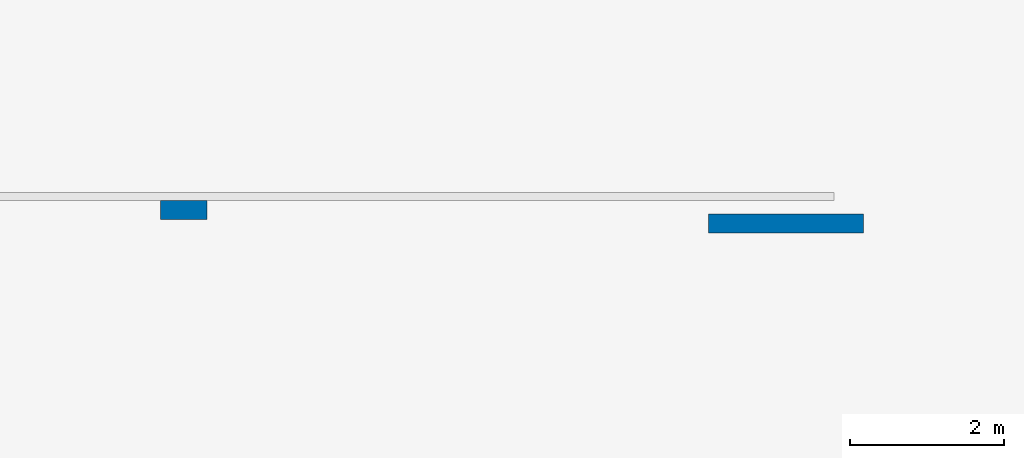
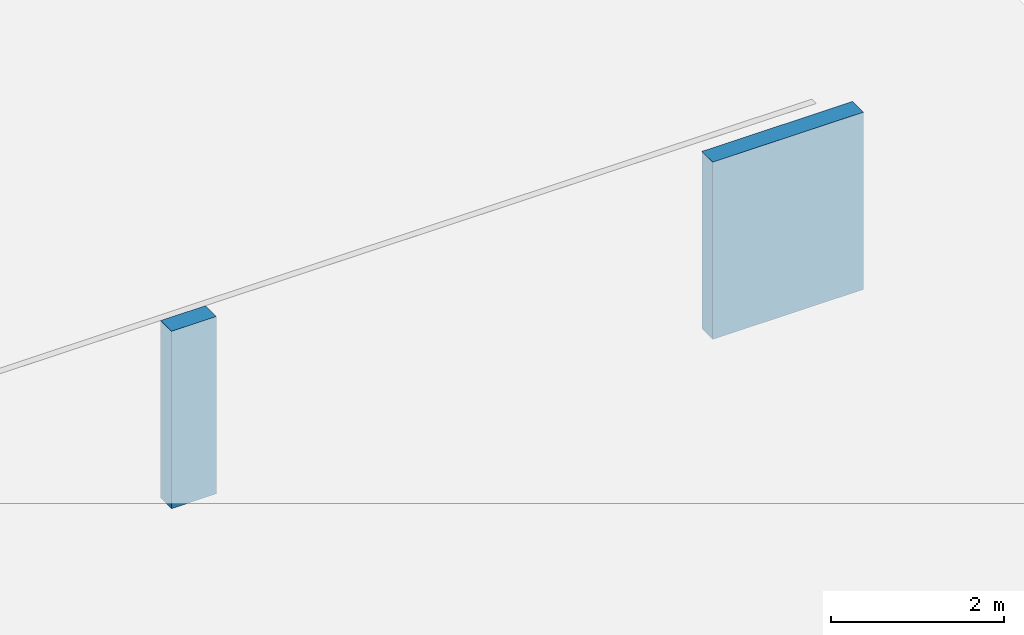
# One storey, part 2 of 10: 2 columns.
"""IFC2X3 building model written with IfcOpenShell, lengths in millimetres."""

import ifcopenshell
import ifcopenshell.guid

model = None  # the IFC model being written
_history = None  # IfcOwnerHistory: only IFC2X3 demands one
_inside = {}  # id of a spatial element -> (the spatial element, [elements in it])
_under = {}  # id of a project, library or spatial element -> (it, [spatial elements below it])
_declared = {}  # id of a project -> (the project, [libraries it declares])
_typed = {}  # id of a type object -> (the type object, [elements of that type])
_made_of = {}  # id of a material, layer set ... -> (it, [elements and type objects made of it])


def new_model(schema):
    """Start an empty IFC model of exactly this schema.

    Asked for "IFC4X3", IfcOpenShell would pick the latest addendum, in which some entities
    have other attributes; the version numbers below select the first issue.
    IFC2X3 requires an IfcOwnerHistory on every rooted entity: one is made here for all.
    """
    global model, _history
    if schema == "IFC4X3":
        model = ifcopenshell.file(schema_version=(4, 3, 0, 0))
    else:
        model = ifcopenshell.file(schema=schema)
    _inside.clear()
    _under.clear()
    _declared.clear()
    _typed.clear()
    _made_of.clear()
    _history = None
    if model.schema == "IFC2X3":
        org = make("IfcOrganization", Name="unknown")
        user = make(
            "IfcPersonAndOrganization",
            ThePerson=make("IfcPerson", FamilyName="unknown"),
            TheOrganization=org,
        )
        app = make(
            "IfcApplication",
            ApplicationDeveloper=org,
            Version="unknown",
            ApplicationFullName="unknown",
            ApplicationIdentifier="unknown",
        )
        _history = make(
            "IfcOwnerHistory",
            OwningUser=user,
            OwningApplication=app,
            ChangeAction="ADDED",
            CreationDate=0,
        )
    return model


def make(cls, **values):
    """One entity of the class cls with the attributes given. An attribute that is None is left unset."""
    return model.create_entity(
        cls, **{name: value for name, value in values.items() if value is not None}
    )


def entity(cls, *values):
    """Any entity or typed value of the class cls, its attributes in the order of the schema. None: left unset."""
    e = model.create_entity(cls)
    for i, value in enumerate(values):
        if value is not None:
            e[i] = value
    return e


def rooted(cls, **values):
    """An entity with a GlobalId (a new one), such as an element, a storey or a relation."""
    return make(cls, GlobalId=ifcopenshell.guid.new(), OwnerHistory=_history, **values)


def si_unit(unit_type, name, prefix=None):
    """IfcSIUnit, for example si_unit("LENGTHUNIT", "METRE", prefix="MILLI")."""
    return make("IfcSIUnit", UnitType=unit_type, Prefix=prefix, Name=name)


def converted_unit(unit_type, name, factor, base, dimensions=None, offset=None):
    """IfcConversionBasedUnit, such as the inch: factor (a typed value) times the base unit."""
    return make(
        "IfcConversionBasedUnit"
        if offset is None
        else "IfcConversionBasedUnitWithOffset",
        ConversionOffset=offset,
        Dimensions=None
        if dimensions is None
        else entity("IfcDimensionalExponents", *dimensions),
        UnitType=unit_type,
        Name=name,
        ConversionFactor=make(
            "IfcMeasureWithUnit", ValueComponent=factor, UnitComponent=base
        ),
    )


def assignment(units):
    """IfcUnitAssignment: the units of a project."""
    return None if units is None else make("IfcUnitAssignment", Units=units)


def point(xyz):
    """IfcCartesianPoint."""
    return None if xyz is None else make("IfcCartesianPoint", Coordinates=xyz)


def direction(xyz):
    """IfcDirection."""
    return None if xyz is None else make("IfcDirection", DirectionRatios=xyz)


def frame(location, z_axis=None, x_axis=None):
    """IfcAxis2Placement3D, a coordinate frame: its origin and axes. An axis left out is left unset."""
    return make(
        "IfcAxis2Placement3D",
        Location=point(location),
        Axis=direction(z_axis),
        RefDirection=direction(x_axis),
    )


def frame_2d(location, x_axis=None):
    """IfcAxis2Placement2D, a coordinate frame in the plane: its origin and x axis."""
    return make(
        "IfcAxis2Placement2D", Location=point(location), RefDirection=direction(x_axis)
    )


def origin():
    """The frame at (0, 0, 0) with its axes left unset."""
    return frame((0.0, 0.0, 0.0))


def origin_with_axes():
    """The frame at (0, 0, 0) with the z axis (0, 0, 1) and the x axis (1, 0, 0) written out."""
    return frame((0.0, 0.0, 0.0), z_axis=(0.0, 0.0, 1.0), x_axis=(1.0, 0.0, 0.0))


def place(relative_to, where):
    """IfcLocalPlacement: puts the frame where relative to a parent placement (None: the world)."""
    return make(
        "IfcLocalPlacement", PlacementRelTo=relative_to, RelativePlacement=where
    )


def context(
    kind, dimensions, precision=None, world=None, true_north=None, identifier=None
):
    """IfcGeometricRepresentationContext, for example the 3D "Model" context."""
    return make(
        "IfcGeometricRepresentationContext",
        ContextIdentifier=identifier,
        ContextType=kind,
        CoordinateSpaceDimension=dimensions,
        Precision=precision,
        WorldCoordinateSystem=world,
        TrueNorth=true_north,
    )


def subcontext(parent, identifier, kind, view, scale=None):
    """IfcGeometricRepresentationSubContext, for example "Body" below "Model"."""
    return make(
        "IfcGeometricRepresentationSubContext",
        ContextIdentifier=identifier,
        ContextType=kind,
        ParentContext=parent,
        TargetScale=scale,
        TargetView=view,
    )


def project(units=None, contexts=None):
    """IfcProject with its units and contexts."""
    return rooted(
        "IfcProject",
        Name="project",
        RepresentationContexts=contexts,
        UnitsInContext=assignment(units),
    )


def spatial(cls, under=None, at=None, **own):
    """A site, building, storey or space (cls), placed at a placement, below another one or the project."""
    s = rooted(cls, ObjectPlacement=at, **own)
    if under is not None:
        _under.setdefault(under.id(), (under, []))[1].append(s)
    return s


def profile(cls, at=None, kind="AREA", **sizes):
    """A parametric profile (cls). Its sizes go by their IFC names, for example OverallWidth=200.0."""
    return make(cls, ProfileType=kind, Position=at, **sizes)


def rectangle(**sizes):
    """IfcRectangleProfileDef."""
    return profile("IfcRectangleProfileDef", **sizes)


def extrude(swept, where, along, depth):
    """IfcExtrudedAreaSolid: the profile swept, set in the frame where, extruded along a direction by depth."""
    return make(
        "IfcExtrudedAreaSolid",
        SweptArea=swept,
        Position=where,
        ExtrudedDirection=direction(along),
        Depth=depth,
    )


def shape(context_of_items, identifier, shape_type, items):
    """IfcShapeRepresentation: the items that make up one representation, for example the "Body"."""
    return make(
        "IfcShapeRepresentation",
        ContextOfItems=context_of_items,
        RepresentationIdentifier=identifier,
        RepresentationType=shape_type,
        Items=items,
    )


def material(Name=None, Category=None):
    """IfcMaterial."""
    return make("IfcMaterial", Name=Name, Category=Category)


def made_of(thing, what):
    """Note that an element or type object is made of a material, layer set ...; save() writes the relation."""
    if what is not None:
        _made_of.setdefault(what.id(), (what, []))[1].append(thing)
    return thing


def element(
    cls,
    number,
    at=None,
    inside=None,
    cuts=None,
    type_object=None,
    material=None,
    context=None,
    identifier="Body",
    shape_type=None,
    held_by="IfcProductDefinitionShape",
    body=None,
    shapes=None,
    **own,
):
    """One element of the class cls, such as IfcWall. Its Tag is "e" and its number.

    at: its placement. inside: the storey or other place that contains it. cuts: it is an
    opening in that element (IfcRelVoidsElement). A single representation is given by context,
    identifier, shape_type and body (its items); several are given by shapes. held_by: the class
    of the entity that holds the representations. save() writes the other relations.
    """
    e = rooted(cls, Tag="e%d" % number, ObjectPlacement=at, **own)
    if body is not None:
        shapes = [shape(context, identifier, shape_type, body)]
    if shapes is not None:
        e.Representation = make(held_by, Representations=shapes)
    if inside is not None:
        _inside.setdefault(inside.id(), (inside, []))[1].append(e)
    if cuts is not None:
        rooted(
            "IfcRelVoidsElement", RelatingBuildingElement=cuts, RelatedOpeningElement=e
        )
    if type_object is not None:
        _typed.setdefault(type_object.id(), (type_object, []))[1].append(e)
    return made_of(e, material)


def aggregate(whole, parts):
    """IfcRelAggregates: a whole, such as a stair, and the parts it consists of."""
    return rooted("IfcRelAggregates", RelatingObject=whole, RelatedObjects=parts)


def save(model, path):
    """Write the relations noted so far, then the file.

    IfcRelAggregates (storeys below a building ...), IfcRelContainedInSpatialStructure (elements
    in a storey), IfcRelDefinesByType, IfcRelAssociatesMaterial and IfcRelDeclares: one each for
    every whole, place, type object, material and project.
    """
    for whole, parts in _under.values():
        aggregate(whole, parts)
    for where, things in _inside.values():
        rooted(
            "IfcRelContainedInSpatialStructure",
            RelatedElements=things,
            RelatingStructure=where,
        )
    for kind, things in _typed.values():
        rooted("IfcRelDefinesByType", RelatedObjects=things, RelatingType=kind)
    for what, things in _made_of.values():
        rooted("IfcRelAssociatesMaterial", RelatedObjects=things, RelatingMaterial=what)
    for by, libraries in _declared.values():
        rooted("IfcRelDeclares", RelatingContext=by, RelatedDefinitions=libraries)
    model.write(path)


model = new_model("IFC2X3")

# Units and contexts
model_context = context("Model", 3, precision=1e-05, world=origin())
body_context = subcontext(model_context, "Body", "Model", "MODEL_VIEW")
ifc_project = project(units=[si_unit("LENGTHUNIT", "METRE", prefix="MILLI"), converted_unit("PLANEANGLEUNIT", "DEGREE", entity("IfcPlaneAngleMeasure", 0.0174532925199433), si_unit("PLANEANGLEUNIT", "RADIAN"), dimensions=[0, 0, 0, 0, 0, 0, 0]), si_unit("AREAUNIT", "SQUARE_METRE"), si_unit("VOLUMEUNIT", "CUBIC_METRE")], contexts=[model_context])

# Building, storey
building_placement = place(None, origin())
building = spatial("IfcBuilding", under=ifc_project, at=building_placement, Name="Gebäude", CompositionType="ELEMENT")
storey_placement = place(building_placement, frame((0.0, 0.0, -3205.0), z_axis=(0.0, 0.0, 1.0), x_axis=(1.0, 0.0, 0.0)))
storey = spatial("IfcBuildingStorey", under=building, at=storey_placement, Name="KG.- Grundriss", CompositionType="ELEMENT", Elevation=-3205.0)

# Columns
ifc_material_1 = material(Name="Stb-Stütze")
column_1_placement = place(storey_placement, frame((268597.684201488, 98070.06618296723, 3205.0), z_axis=(0.0, 0.0, 1.0), x_axis=(1.0, 0.0, 0.0)))
element("IfcColumn", 1, at=column_1_placement, inside=storey, material=ifc_material_1, Name="<Unnamed Element>", context=body_context, shape_type="SweptSolid", body=[
    extrude(rectangle(XDim=2010.021088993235, YDim=250.0, at=frame_2d((1005.010544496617, 125.0), x_axis=(0.9999999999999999, 0.0))), origin_with_axes(), (0.0, 0.0, 1.0), 2500.0),
])
ifc_material_2 = material(Name="Stb-Stütze")
column_2_placement = place(storey_placement, frame((261482.7052904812, 98245.06618296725, 3205.0), z_axis=(0.0, 0.0, 1.0), x_axis=(1.0, 0.0, 0.0)))
element("IfcColumn", 2, at=column_2_placement, inside=storey, material=ifc_material_2, Name="<Unnamed Element>", context=body_context, shape_type="SweptSolid", body=[
    extrude(rectangle(XDim=600.0, YDim=250.0, at=frame_2d((300.000000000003, 124.9999999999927), x_axis=(1.0, -2.425319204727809e-14))), origin_with_axes(), (0.0, 0.0, 1.0), 2500.0),
])

save(model, "model.ifc")
